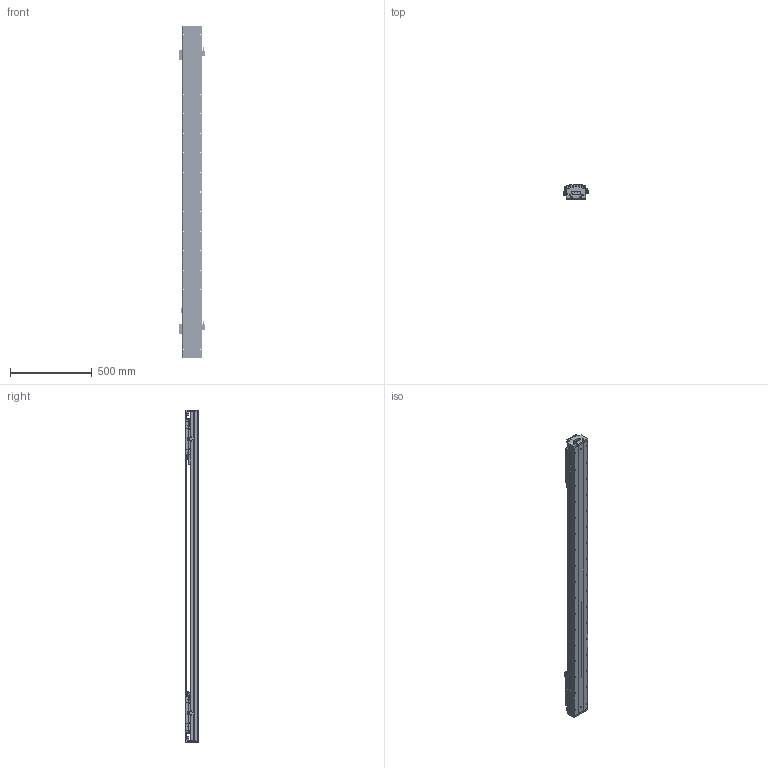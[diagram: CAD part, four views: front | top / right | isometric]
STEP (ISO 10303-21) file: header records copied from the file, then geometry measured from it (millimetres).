
FILE_DESCRIPTION (( 'STEP AP203' ), '1' );
FILE_NAME ('DKW120-2×B3-W060（T1400-L005-0.2）.STEP', '2021-09-28T08:37:07', ( '微软用户' ), ( '微软中国' ), 'SwSTEP 2.0', 'SolidWorks 2018', '' );
FILE_SCHEMA (( 'CONFIG_CONTROL_DESIGN' ));
Length unit declared in the file: millimetre
Products named in the file (22): 砎蝶猾沭; DKW-SG-GYP-H-00 嫖萇覜茼え; DKW-DG-XJ-Z-00 笢潔滅袉砎蝶; 12160-0000-003-00 DKW120詩湍嶺輸; EE_SX674A; DKW-GYP-ZJ-00 笢潔嫖萇覜茼え; 12160-0000-004-00  DKW120詩湍揤輸; DKW120-B15-T300-DZ-00 菁釱; B3-W060_00; DKW-KGZ-ZJ-00 中间光电开关支架; DKW120 单轴模组-拉钢带组件; MSB15-DG-U; DKW120-2×B3-W060（T1400-L005-0.2）; BKMA01-W060-TRL280; 06652-0001-001-00 DKW120傷啣; RUS嫖掑喜; 06652-0001-004-00 DKW120嶺輸菜輸; Ru2; DKW-HXJ-JY-00 遣喳砎蝶; DKW119-RU-DTJ-00 RU2黍杅芛盓殤; 10940-0001-004-00 120詩湍裔啣; 10980-0001-003-00 嫖萇羲壽嘐隅釱
Assembly tree (41 placements, depth 3):
  DKW120-2×B3-W060（T1400-L005-0.2）
    DKW120-B15-T300-DZ-00 菁釱
    MSB15-DG-U  x2
    DKW120 单轴模组-拉钢带组件
      06652-0001-001-00 DKW120傷啣  x2
      06652-0001-004-00 DKW120嶺輸菜輸  x4
      DKW-HXJ-JY-00 遣喳砎蝶  x4
      10940-0001-004-00 120詩湍裔啣
      砎蝶猾沭  x2
      12160-0000-003-00 DKW120詩湍嶺輸  x2
      12160-0000-004-00  DKW120詩湍揤輸  x2
    BKMA01-W060-TRL280
    RUS嫖掑喜
    Ru2  x2
    DKW119-RU-DTJ-00 RU2黍杅芛盓殤  x2
    10980-0001-003-00 嫖萇羲壽嘐隅釱  x2
    DKW-SG-GYP-H-00 嫖萇覜茼え  x2
    EE_SX674A  x5
    B3-W060_00  x2
    DKW-DG-XJ-Z-00 笢潔滅袉砎蝶
    DKW-GYP-ZJ-00 笢潔嫖萇覜茼え
    DKW-KGZ-ZJ-00 中间光电开关支架
Bounding box: 154.1 x 84 x 2036 mm (x, y, z)
Volume: 8060810.1 mm3; surface area: 3031852.9 mm2
Topology: 60 solids, 158 shells, 6572 faces, 17806 edges, 11459 vertices
Faces by surface type: plane 3594, cylinder 1964, cone 520, bspline 494
Entity records: 141990 total; most frequent: CARTESIAN_POINT 48630, ORIENTED_EDGE 19301, DIRECTION 17998, EDGE_CURVE 9691, VERTEX_POINT 6357, AXIS2_PLACEMENT_3D 6034, VECTOR 5930, LINE 5930
